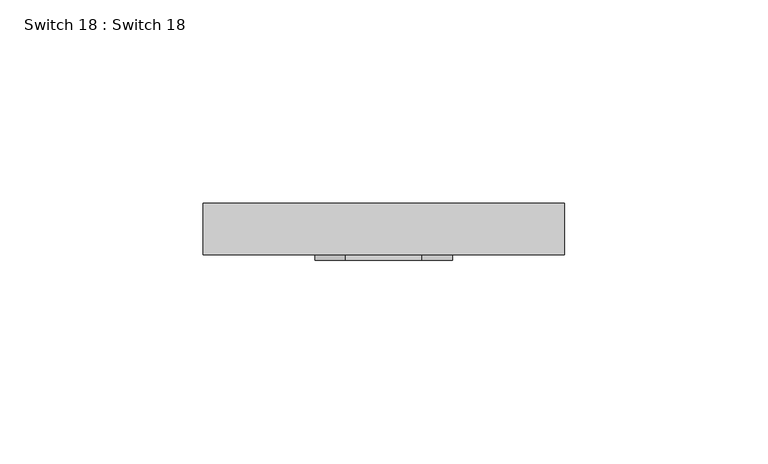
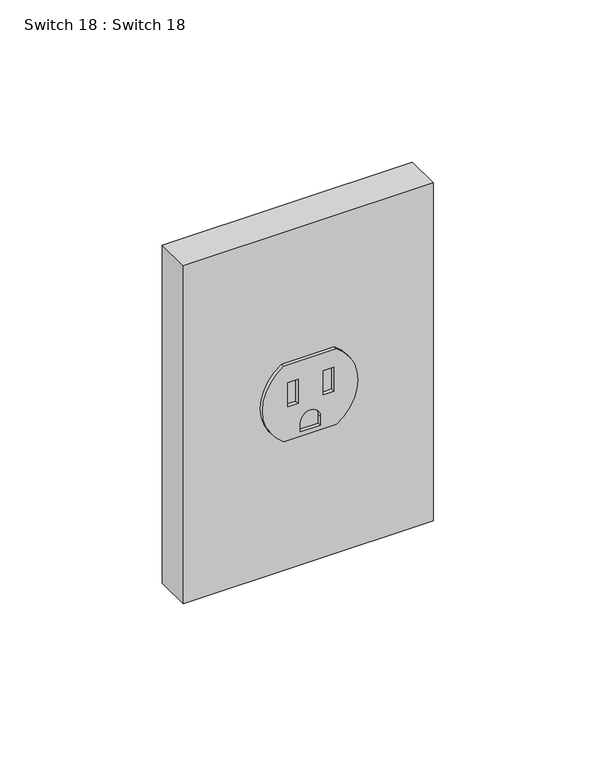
"""IFC4 building model written with IfcOpenShell, lengths in millimetres: proxy geometry, Switch 18 : Switch 18."""

from ifc_helpers import new_model, si_unit, point, frame, frame_2d, origin, origin_with_axes, place, context, project, spatial, polyline, circle_curve, trimmed, segment, composite_curve, outline, extrude, source, transform, mapped, element, save


def switch_18_switch_18_ac0df519(model_context):
    return source(origin(), model_context, "Body", "SweptSolid", [
        extrude(outline(composite_curve([segment(trimmed(circle_curve(frame_2d((63.5, -3.5833425)), 17.002253), [point((49.3705237, 5.8736395))], [point((77.6294763, 5.8736395))], False, "CARTESIAN"), True, "CONTINUOUS"), segment(polyline([(77.6294763, 5.8736395), (77.6294763, -12.8795988)]), True, "CONTINUOUS"), segment(trimmed(circle_curve(frame_2d((63.5, -3.4226169)), 17.002253), [point((77.6294763, -12.8795988))], [point((49.3705237, -12.8795988))], False, "CARTESIAN"), True, "CONTINUOUS"), segment(polyline([(49.3705237, -12.8795988), (49.3705237, 5.8736395)]), True, "CONTINUOUS")], self_intersect=False), holes=[polyline([(71.035527, -7.7983059), (62.0590541, -7.7983059), (62.0590541, -11.4410858), (71.035527, -11.4410858), (71.035527, -7.7983059)]), polyline([(71.0964286, 1.1283513), (71.0964286, 4.9339173), (62.1402229, 4.9339173), (62.1402229, 1.1283513), (71.0964286, 1.1283513)]), composite_curve([segment(polyline([(50.9680282, 0.1460814), (50.9680282, -6.9792292), (54.3955962, -6.9792292)]), True, "CONTINUOUS"), segment(trimmed(circle_curve(frame_2d((54.3955962, -3.4165739)), 3.5626553), [point((54.3955962, -6.9792292))], [point((54.3955962, 0.1460814))], True, "CARTESIAN"), True, "CONTINUOUS"), segment(polyline([(54.3955962, 0.1460814), (50.9680282, 0.1460814)]), True, "CONTINUOUS")], self_intersect=False)]), frame((0.0, -13.9829052, 0.0), z_axis=(0.0, 1.0, 0.0), x_axis=(0.0, 0.0, 1.0)), (0.0, 0.0, 1.0), 1.2829052),
        extrude(outline(polyline([(-47.9529797, -12.7), (-47.9529797, 0.0), (40.9470203, 0.0), (40.9470203, -12.7), (-47.9529797, -12.7)])), origin_with_axes(), (0.0, 0.0, 1.0), 127.0),
    ])


if __name__ == "__main__":
    model = new_model("IFC4")
    model_context = context("Model", 3, world=origin())
    ifc_project = project(units=[si_unit("LENGTHUNIT", "METRE", prefix="MILLI")], contexts=[model_context])
    site = spatial("IfcSite", under=ifc_project)
    building = spatial("IfcBuilding", under=site)
    placement = place(None, origin())
    switch_18_switch_18_shape = switch_18_switch_18_ac0df519(model_context)
    element("IfcBuildingElementProxy", 1, Name="Switch 18 : Switch 18", ObjectType="Switch 18 : Switch 18", at=placement, inside=building, context=model_context, shape_type="MappedRepresentation", body=[
        mapped(switch_18_switch_18_shape, transform((0.0, 0.0, 0.0), x_axis=(1.0, 0.0, 0.0), y_axis=(0.0, 1.0, 0.0), z_axis=(0.0, 0.0, 1.0))),
    ])
    save(model, "model.ifc")
